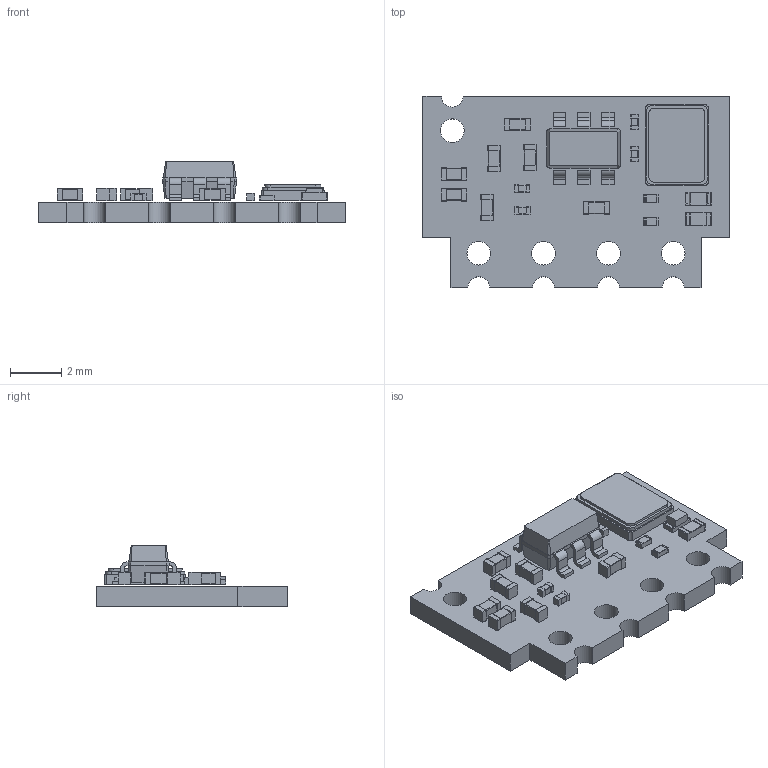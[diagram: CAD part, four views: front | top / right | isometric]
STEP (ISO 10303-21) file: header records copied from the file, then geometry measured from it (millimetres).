
FILE_DESCRIPTION(('KiCad electronic assembly'),'2;1');
FILE_NAME('E16-T4MS1.step','2024-08-07T16:36:47',('Pcbnew'),('Kicad'), 'Open CASCADE STEP processor 7.7','KiCad to STEP converter','Unknown' );
FILE_SCHEMA(('AUTOMOTIVE_DESIGN { 1 0 10303 214 1 1 1 1 }'));
Length unit declared in the file: millimetre
Products named in the file (18): E16-T4MS1 1; R_0402_1005Metric; C_0201_0603Metric; Crystal_SMD_SeikoEpson_TSX3225-4Pin_3.2x2.5mm; R_0201_0603Metric; L_0402_1005Metric; SOT-23-6; SOT_23_6; LED_0402_1005Metric; C_0402_1005Metric; _autosave-10737-V1.1_PCB
Assembly tree (26 placements, depth 3):
  E16-T4MS1 1
    R_0402_1005Metric
      R_0402_1005Metric
    C_0201_0603Metric  x4
      C_0201_0603Metric
    Crystal_SMD_SeikoEpson_TSX3225-4Pin_3.2x2.5mm
      Crystal_SMD_SeikoEpson_TSX3225-4Pin_3.2x2.5mm
    R_0201_0603Metric  x2
      R_0201_0603Metric
    L_0402_1005Metric  x3
      L_0402_1005Metric
    SOT-23-6
      SOT_23_6
    LED_0402_1005Metric
      LED_0402_1005Metric
    C_0402_1005Metric  x4
      C_0402_1005Metric
    _autosave-10737-V1.1_PCB
Bounding box: 12 x 7.5 x 2.4 mm (x, y, z)
Volume: 78.4 mm3; surface area: 285.4 mm2
Topology: 18 solids, 18 shells, 614 faces, 1591 edges, 1038 vertices
Faces by surface type: plane 373, cylinder 211, bspline 30
Full cylindrical faces by diameter (mm): 0.93 x5
Entity records: 13786 total; most frequent: CARTESIAN_POINT 2070, ORIENTED_EDGE 1894, DIRECTION 1851, EDGE_CURVE 947, LINE 701, VECTOR 701, VERTEX_POINT 610, AXIS2_PLACEMENT_3D 575
